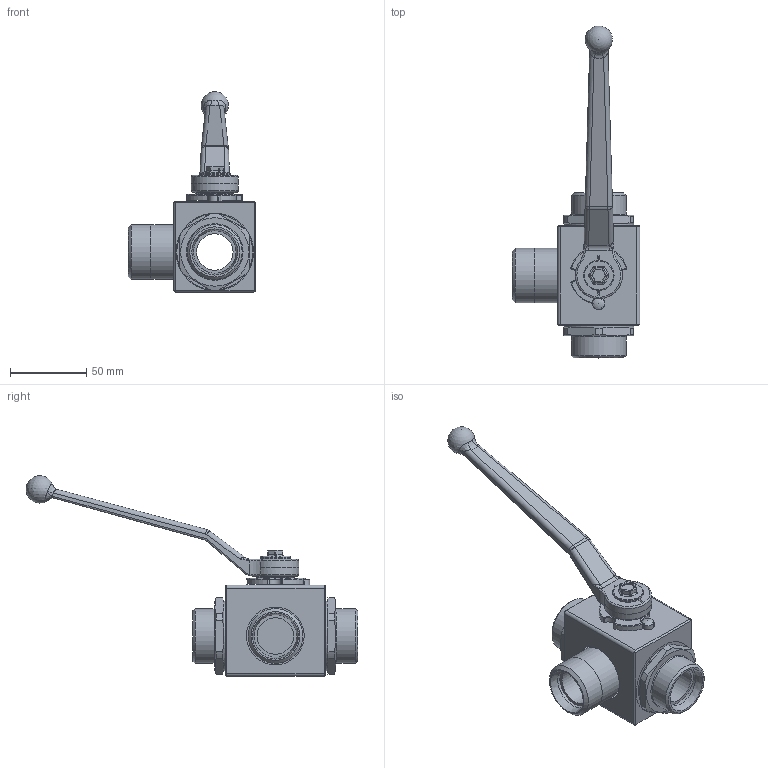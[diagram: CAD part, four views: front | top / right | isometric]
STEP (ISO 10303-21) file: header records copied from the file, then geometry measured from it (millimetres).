
FILE_DESCRIPTION( ( 'Unknown' ), '1' );
FILE_NAME( 'H:/PISTER/3D-MODELLE/BK3 stp/BK3 DN25 28L.stp', 'Unknown', ( 'Unknown' ), ( 'Unknown' ), 'PSStep 14.0', 'Unknown', ' ' );
FILE_SCHEMA( ( 'AUTOMOTIVE_DESIGN { 1 0 10303 214 1 1 1 1 }' ) );
Length unit declared in the file: millimetre
Products named in the file (11): Assem1; 10-025-001; 06-025-186-oa7; 09-14-001; 58-28740-13-oa8; Griff_SW14; 58-0933-147; 04-025-151-oa9; 04-025-151-oa10; 01-025-024-oa11; 04-025-063-oa12
Assembly tree (10 placements, depth 2):
  Assem1
    10-025-001
    06-025-186-oa7
    09-14-001
    58-28740-13-oa8
    Griff_SW14
    58-0933-147
    04-025-151-oa9
    04-025-151-oa10
    01-025-024-oa11
    04-025-063-oa12
Bounding box: 84 x 218.18 x 131.9 mm (x, y, z)
Volume: 100885.3 mm3; surface area: 69045.5 mm2
Topology: 10 solids, 10 shells, 382 faces, 936 edges, 570 vertices
Faces by surface type: plane 133, cylinder 129, torus 46, cone 32, bspline 28, sphere 14
Full cylindrical faces by diameter (mm): 5 x1, 6 x1, 6.5 x1, 7.98 x1, 20 x3, 20.2 x1, 24 x3, 25 x1, 28 x3, 36 x4, 38 x1, 43.3 x2, 46 x2, 50 x2, 51 x2
Entity records: 15414 total; most frequent: CARTESIAN_POINT 3659, DIRECTION 1863, ORIENTED_EDGE 1662, EDGE_CURVE 831, AXIS2_PLACEMENT_3D 767, VERTEX_POINT 544, EDGE_LOOP 476, FACE_OUTER_BOUND 425
